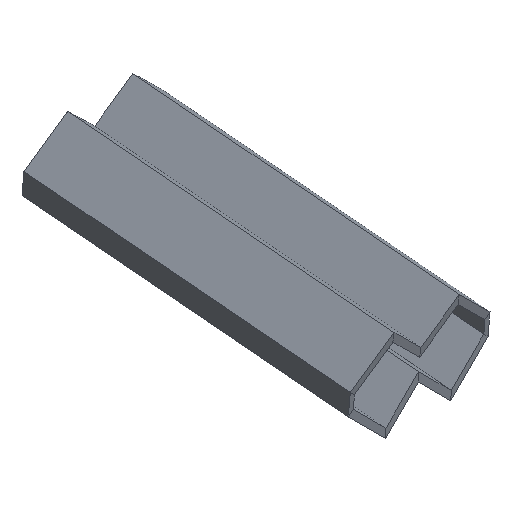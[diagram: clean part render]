
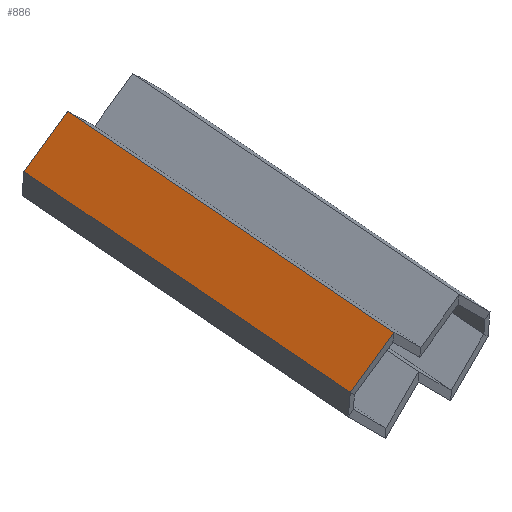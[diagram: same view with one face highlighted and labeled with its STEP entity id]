
A CAD part, isometric view. The second image highlights one B-rep face of the part: STEP entity #886.
In plain terms, the highlighted planar face has unit normal (-0.706, -0.061, 0.706).
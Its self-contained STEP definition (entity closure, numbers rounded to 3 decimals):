
#62=FACE_OUTER_BOUND('',#122,.T.);
#122=EDGE_LOOP('',(#710,#711,#712,#713));
#219=LINE('',#1381,#335);
#224=LINE('',#1391,#340);
#225=LINE('',#1393,#341);
#226=LINE('',#1394,#342);
#335=VECTOR('',#1140,10.);
#340=VECTOR('',#1151,10.);
#341=VECTOR('',#1152,10.);
#342=VECTOR('',#1153,10.);
#413=VERTEX_POINT('',#1372);
#415=VERTEX_POINT('',#1380);
#417=VERTEX_POINT('',#1390);
#418=VERTEX_POINT('',#1392);
#515=EDGE_CURVE('',#413,#415,#219,.T.);
#520=EDGE_CURVE('',#417,#413,#224,.T.);
#521=EDGE_CURVE('',#417,#418,#225,.T.);
#522=EDGE_CURVE('',#418,#415,#226,.T.);
#710=ORIENTED_EDGE('',*,*,#520,.F.);
#711=ORIENTED_EDGE('',*,*,#521,.T.);
#712=ORIENTED_EDGE('',*,*,#522,.T.);
#713=ORIENTED_EDGE('',*,*,#515,.F.);
#826=PLANE('',#963);
#886=ADVANCED_FACE('',(#62),#826,.F.);
#963=AXIS2_PLACEMENT_3D('',#1389,#1149,#1150);
#1140=DIRECTION('',(0.,-0.996,-0.087));
#1149=DIRECTION('center_axis',(0.706,0.062,-0.706));
#1150=DIRECTION('ref_axis',(-0.707,0.122,-0.696));
#1151=DIRECTION('',(0.707,-0.122,0.696));
#1152=DIRECTION('',(0.,-0.996,-0.087));
#1153=DIRECTION('',(0.707,-0.122,0.696));
#1372=CARTESIAN_POINT('',(-25.,-90.968,-16.041));
#1380=CARTESIAN_POINT('',(-25.,-340.968,-37.831));
#1381=CARTESIAN_POINT('',(-25.,-89.581,-15.92));
#1389=CARTESIAN_POINT('Origin',(-53.529,-86.032,-44.14));
#1390=CARTESIAN_POINT('',(-53.529,-86.032,-44.14));
#1391=CARTESIAN_POINT('',(-53.529,-86.032,-44.14));
#1392=CARTESIAN_POINT('',(-53.529,-336.032,-65.93));
#1393=CARTESIAN_POINT('',(-53.529,-86.032,-44.14));
#1394=CARTESIAN_POINT('',(-28.529,-340.357,-41.307));
